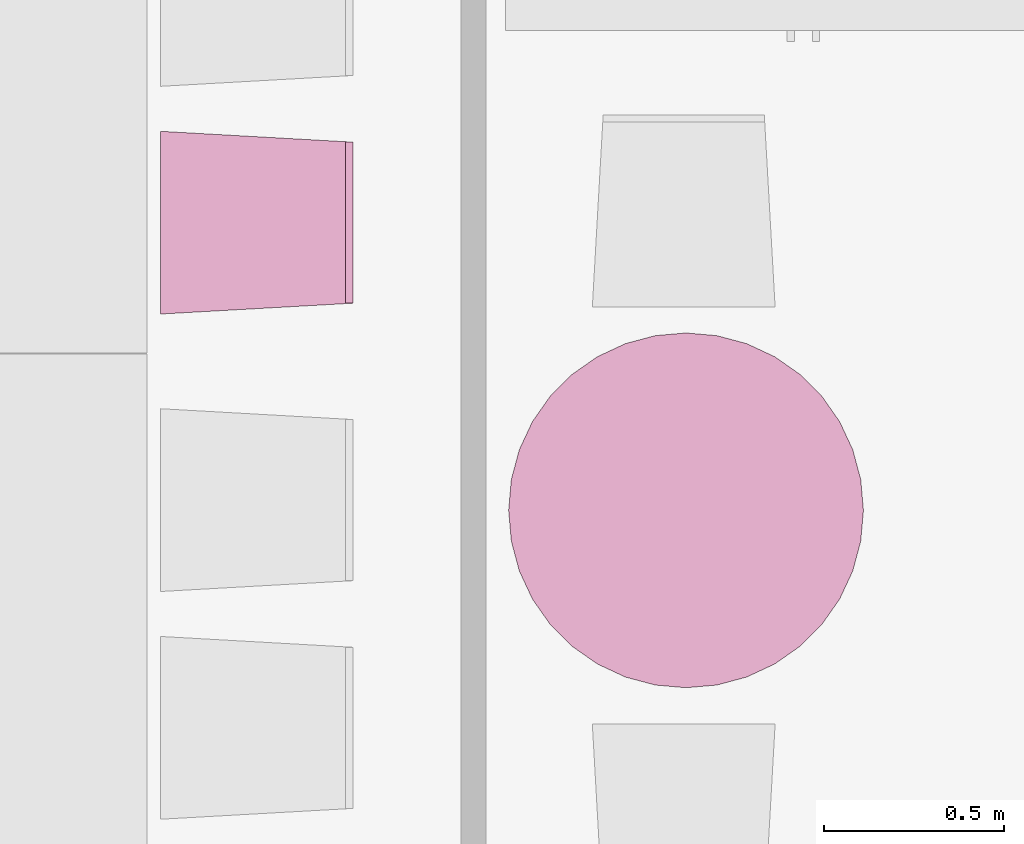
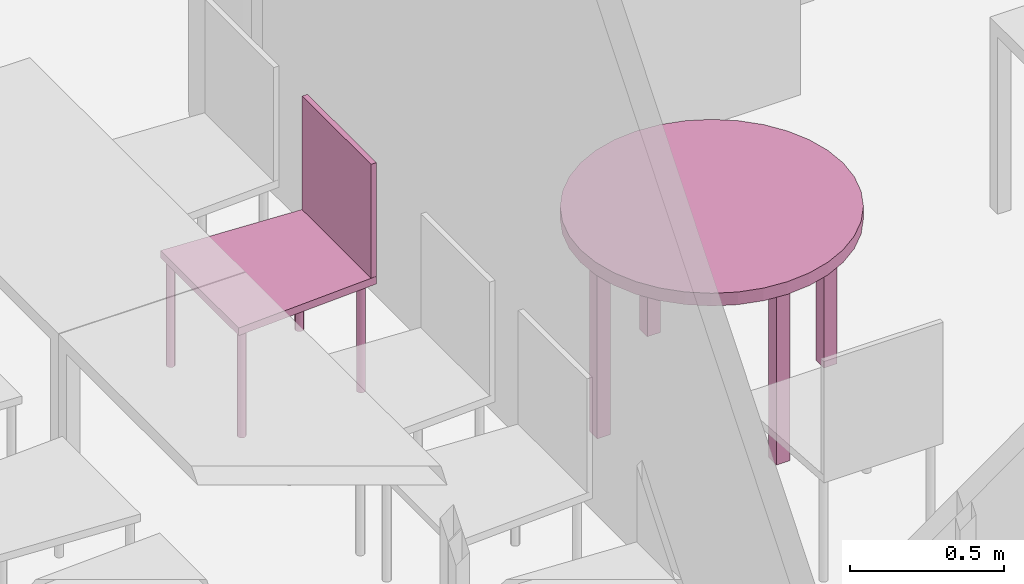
"""IFC4 building model written with IfcOpenShell, lengths in metres."""

import ifcopenshell
import ifcopenshell.guid

model = None  # the IFC model being written
_history = None  # IfcOwnerHistory: only IFC2X3 demands one
_inside = {}  # id of a spatial element -> (the spatial element, [elements in it])
_under = {}  # id of a project, library or spatial element -> (it, [spatial elements below it])
_declared = {}  # id of a project -> (the project, [libraries it declares])
_typed = {}  # id of a type object -> (the type object, [elements of that type])
_made_of = {}  # id of a material, layer set ... -> (it, [elements and type objects made of it])


def new_model(schema):
    """Start an empty IFC model of exactly this schema.

    Asked for "IFC4X3", IfcOpenShell would pick the latest addendum, in which some entities
    have other attributes; the version numbers below select the first issue.
    IFC2X3 requires an IfcOwnerHistory on every rooted entity: one is made here for all.
    """
    global model, _history
    if schema == "IFC4X3":
        model = ifcopenshell.file(schema_version=(4, 3, 0, 0))
    else:
        model = ifcopenshell.file(schema=schema)
    _inside.clear()
    _under.clear()
    _declared.clear()
    _typed.clear()
    _made_of.clear()
    _history = None
    if model.schema == "IFC2X3":
        org = make("IfcOrganization", Name="unknown")
        user = make(
            "IfcPersonAndOrganization",
            ThePerson=make("IfcPerson", FamilyName="unknown"),
            TheOrganization=org,
        )
        app = make(
            "IfcApplication",
            ApplicationDeveloper=org,
            Version="unknown",
            ApplicationFullName="unknown",
            ApplicationIdentifier="unknown",
        )
        _history = make(
            "IfcOwnerHistory",
            OwningUser=user,
            OwningApplication=app,
            ChangeAction="ADDED",
            CreationDate=0,
        )
    return model


def make(cls, **values):
    """One entity of the class cls with the attributes given. An attribute that is None is left unset."""
    return model.create_entity(
        cls, **{name: value for name, value in values.items() if value is not None}
    )


def entity(cls, *values):
    """Any entity or typed value of the class cls, its attributes in the order of the schema. None: left unset."""
    e = model.create_entity(cls)
    for i, value in enumerate(values):
        if value is not None:
            e[i] = value
    return e


def rooted(cls, **values):
    """An entity with a GlobalId (a new one), such as an element, a storey or a relation."""
    return make(cls, GlobalId=ifcopenshell.guid.new(), OwnerHistory=_history, **values)


def si_unit(unit_type, name, prefix=None):
    """IfcSIUnit, for example si_unit("LENGTHUNIT", "METRE", prefix="MILLI")."""
    return make("IfcSIUnit", UnitType=unit_type, Prefix=prefix, Name=name)


def converted_unit(unit_type, name, factor, base, dimensions=None, offset=None):
    """IfcConversionBasedUnit, such as the inch: factor (a typed value) times the base unit."""
    return make(
        "IfcConversionBasedUnit"
        if offset is None
        else "IfcConversionBasedUnitWithOffset",
        ConversionOffset=offset,
        Dimensions=None
        if dimensions is None
        else entity("IfcDimensionalExponents", *dimensions),
        UnitType=unit_type,
        Name=name,
        ConversionFactor=make(
            "IfcMeasureWithUnit", ValueComponent=factor, UnitComponent=base
        ),
    )


def derived_unit(unit_type, elements):
    """IfcDerivedUnit: a product of units, each with its exponent."""
    return make(
        "IfcDerivedUnit",
        Elements=[
            make("IfcDerivedUnitElement", Unit=unit, Exponent=power)
            for unit, power in elements
        ],
        UnitType=unit_type,
    )


def assignment(units):
    """IfcUnitAssignment: the units of a project."""
    return None if units is None else make("IfcUnitAssignment", Units=units)


def point(xyz):
    """IfcCartesianPoint."""
    return None if xyz is None else make("IfcCartesianPoint", Coordinates=xyz)


def direction(xyz):
    """IfcDirection."""
    return None if xyz is None else make("IfcDirection", DirectionRatios=xyz)


def frame(location, z_axis=None, x_axis=None):
    """IfcAxis2Placement3D, a coordinate frame: its origin and axes. An axis left out is left unset."""
    return make(
        "IfcAxis2Placement3D",
        Location=point(location),
        Axis=direction(z_axis),
        RefDirection=direction(x_axis),
    )


def origin():
    """The frame at (0, 0, 0) with its axes left unset."""
    return frame((0.0, 0.0, 0.0))


def place(relative_to, where):
    """IfcLocalPlacement: puts the frame where relative to a parent placement (None: the world)."""
    return make(
        "IfcLocalPlacement", PlacementRelTo=relative_to, RelativePlacement=where
    )


def context(
    kind, dimensions, precision=None, world=None, true_north=None, identifier=None
):
    """IfcGeometricRepresentationContext, for example the 3D "Model" context."""
    return make(
        "IfcGeometricRepresentationContext",
        ContextIdentifier=identifier,
        ContextType=kind,
        CoordinateSpaceDimension=dimensions,
        Precision=precision,
        WorldCoordinateSystem=world,
        TrueNorth=true_north,
    )


def subcontext(parent, identifier, kind, view, scale=None):
    """IfcGeometricRepresentationSubContext, for example "Body" below "Model"."""
    return make(
        "IfcGeometricRepresentationSubContext",
        ContextIdentifier=identifier,
        ContextType=kind,
        ParentContext=parent,
        TargetScale=scale,
        TargetView=view,
    )


def project(units=None, contexts=None):
    """IfcProject with its units and contexts."""
    return rooted(
        "IfcProject",
        Name="project",
        RepresentationContexts=contexts,
        UnitsInContext=assignment(units),
    )


def spatial(cls, under=None, at=None, **own):
    """A site, building, storey or space (cls), placed at a placement, below another one or the project."""
    s = rooted(cls, ObjectPlacement=at, **own)
    if under is not None:
        _under.setdefault(under.id(), (under, []))[1].append(s)
    return s


def faces_of(points, faces, orient=None, outer=None):
    """IfcFace entities. A face is a list of loops; a loop is a list of indices into points, from 0.

    orient and outer hold one flag for each loop. By default every Orientation is true, the
    first loop of a face is its IfcFaceOuterBound and the others are IfcFaceBound.
    """
    made = []
    for i, loops in enumerate(faces):
        bounds = []
        for j, loop in enumerate(loops):
            is_outer = j == 0 if outer is None else outer[i][j]
            bounds.append(
                make(
                    "IfcFaceOuterBound" if is_outer else "IfcFaceBound",
                    Bound=make("IfcPolyLoop", Polygon=[points[k] for k in loop]),
                    Orientation=True if orient is None else orient[i][j],
                )
            )
        made.append(make("IfcFace", Bounds=bounds))
    return made


def faceted_brep(points, faces, orient=None, outer=None, voids=None):
    """IfcFacetedBrep: a solid bounded by flat faces; with voids (closed shells), ...WithVoids."""
    shared = [point(p) for p in points]
    hull = make("IfcClosedShell", CfsFaces=faces_of(shared, faces, orient, outer))
    if voids is None:
        return make("IfcFacetedBrep", Outer=hull)
    return make(
        "IfcFacetedBrepWithVoids",
        Outer=hull,
        Voids=[
            make(cls, CfsFaces=faces_of(shared, fs, o, b)) for cls, fs, o, b in voids
        ],
    )


def shape(context_of_items, identifier, shape_type, items):
    """IfcShapeRepresentation: the items that make up one representation, for example the "Body"."""
    return make(
        "IfcShapeRepresentation",
        ContextOfItems=context_of_items,
        RepresentationIdentifier=identifier,
        RepresentationType=shape_type,
        Items=items,
    )


def made_of(thing, what):
    """Note that an element or type object is made of a material, layer set ...; save() writes the relation."""
    if what is not None:
        _made_of.setdefault(what.id(), (what, []))[1].append(thing)
    return thing


def element(
    cls,
    number,
    at=None,
    inside=None,
    cuts=None,
    type_object=None,
    material=None,
    context=None,
    identifier="Body",
    shape_type=None,
    held_by="IfcProductDefinitionShape",
    body=None,
    shapes=None,
    **own,
):
    """One element of the class cls, such as IfcWall. Its Tag is "e" and its number.

    at: its placement. inside: the storey or other place that contains it. cuts: it is an
    opening in that element (IfcRelVoidsElement). A single representation is given by context,
    identifier, shape_type and body (its items); several are given by shapes. held_by: the class
    of the entity that holds the representations. save() writes the other relations.
    """
    e = rooted(cls, Tag="e%d" % number, ObjectPlacement=at, **own)
    if body is not None:
        shapes = [shape(context, identifier, shape_type, body)]
    if shapes is not None:
        e.Representation = make(held_by, Representations=shapes)
    if inside is not None:
        _inside.setdefault(inside.id(), (inside, []))[1].append(e)
    if cuts is not None:
        rooted(
            "IfcRelVoidsElement", RelatingBuildingElement=cuts, RelatedOpeningElement=e
        )
    if type_object is not None:
        _typed.setdefault(type_object.id(), (type_object, []))[1].append(e)
    return made_of(e, material)


def aggregate(whole, parts):
    """IfcRelAggregates: a whole, such as a stair, and the parts it consists of."""
    return rooted("IfcRelAggregates", RelatingObject=whole, RelatedObjects=parts)


def save(model, path):
    """Write the relations noted so far, then the file.

    IfcRelAggregates (storeys below a building ...), IfcRelContainedInSpatialStructure (elements
    in a storey), IfcRelDefinesByType, IfcRelAssociatesMaterial and IfcRelDeclares: one each for
    every whole, place, type object, material and project.
    """
    for whole, parts in _under.values():
        aggregate(whole, parts)
    for where, things in _inside.values():
        rooted(
            "IfcRelContainedInSpatialStructure",
            RelatedElements=things,
            RelatingStructure=where,
        )
    for kind, things in _typed.values():
        rooted("IfcRelDefinesByType", RelatedObjects=things, RelatingType=kind)
    for what, things in _made_of.values():
        rooted("IfcRelAssociatesMaterial", RelatedObjects=things, RelatingMaterial=what)
    for by, libraries in _declared.values():
        rooted("IfcRelDeclares", RelatingContext=by, RelatedDefinitions=libraries)
    model.write(path)


model = new_model("IFC4")

# Units and contexts
model_context = context("Model", 3, precision=1e-05, world=origin())
body_context = subcontext(model_context, "Body", "Model", "MODEL_VIEW")
ifc_project = project(units=[si_unit("LENGTHUNIT", "METRE"), si_unit("AREAUNIT", "SQUARE_METRE"), si_unit("VOLUMEUNIT", "CUBIC_METRE"), si_unit("MASSUNIT", "GRAM", prefix="KILO"), converted_unit("PLANEANGLEUNIT", "DEGREE", entity("IfcPlaneAngleMeasure", 0.0174532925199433), si_unit("PLANEANGLEUNIT", "RADIAN"), dimensions=[0, 0, 0, 0, 0, 0, 0]), derived_unit("THERMALTRANSMITTANCEUNIT", [(si_unit("POWERUNIT", "WATT"), 1), (si_unit("THERMODYNAMICTEMPERATUREUNIT", "KELVIN"), -1), (si_unit("LENGTHUNIT", "METRE"), -2)]), derived_unit("VOLUMETRICFLOWRATEUNIT", [(si_unit("LENGTHUNIT", "METRE"), 3), (converted_unit("TIMEUNIT", "hour", entity("IfcTimeMeasure", 3600.0), si_unit("TIMEUNIT", "SECOND"), dimensions=[0, 0, 1, 0, 0, 0, 0]), -1), (si_unit("LENGTHUNIT", "METRE"), -1)])], contexts=[model_context])

# Building, storeys
building_placement = place(None, origin())
building = spatial("IfcBuilding", under=ifc_project, at=building_placement, Name="HABITATGE PLURIFAMILIAR", CompositionType="ELEMENT")
storey_1_placement = place(building_placement, frame((0.0, 0.0, 3.35)))
storey_1 = spatial("IfcBuildingStorey", under=building, at=storey_1_placement, Name="PLANTA  ALTELL", CompositionType="ELEMENT", Elevation=3.35)
storey_2_placement = place(storey_1_placement, origin())
storey_2 = spatial("IfcBuildingStorey", under=storey_1, at=storey_2_placement, Name="NOU", CompositionType="PARTIAL")

# Furniture
furniture_1_placement = place(storey_2_placement, frame((405.754262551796, 15.1251404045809, 0.05)))
element("IfcFurniture", 1, at=furniture_1_placement, inside=storey_2, Name="Taula D100_PA", context=body_context, shape_type="Brep", body=[
    faceted_brep([(0.983247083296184, 0.491623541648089, 0.7), (0.97577821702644, 0.576993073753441, 0.7), (0.953598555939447, 0.659768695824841, 0.7), (0.917382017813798, 0.737435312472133, 0.7), (0.868229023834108, 0.807633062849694, 0.7), (0.807633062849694, 0.868229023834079, 0.7), (0.737435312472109, 0.91738201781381, 0.7), (0.659768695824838, 0.953598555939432, 0.7), (0.576993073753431, 0.975778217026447, 0.7), (0.491623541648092, 0.983247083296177, 0.7), (0.406254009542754, 0.975778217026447, 0.7), (0.323478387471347, 0.953598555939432, 0.7), (0.245811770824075, 0.91738201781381, 0.7), (0.17561402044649, 0.868229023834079, 0.7), (0.115018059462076, 0.807633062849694, 0.7), (0.0658650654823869, 0.737435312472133, 0.7), (0.0296485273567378, 0.659768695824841, 0.7), (0.00746886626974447, 0.576993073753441, 0.7), (0.0, 0.491623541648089, 0.7), (0.00746886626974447, 0.406254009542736, 0.7), (0.0296485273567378, 0.323478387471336, 0.7), (0.0658650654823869, 0.245811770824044, 0.7), (0.115018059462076, 0.175614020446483, 0.7), (0.17561402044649, 0.115018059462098, 0.7), (0.245811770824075, 0.0658650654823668, 0.7), (0.323478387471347, 0.029648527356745, 0.7), (0.406254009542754, 0.00746886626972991, 0.7), (0.491623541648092, 0.0, 0.7), (0.576993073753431, 0.00746886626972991, 0.7), (0.659768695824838, 0.029648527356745, 0.7), (0.737435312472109, 0.0658650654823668, 0.7), (0.807633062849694, 0.115018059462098, 0.7), (0.868229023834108, 0.175614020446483, 0.7), (0.917382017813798, 0.245811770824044, 0.7), (0.953598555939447, 0.323478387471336, 0.7), (0.97577821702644, 0.406254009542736, 0.7), (0.983247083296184, 0.491623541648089, 0.75), (0.97577821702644, 0.406254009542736, 0.75), (0.953598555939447, 0.323478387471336, 0.75), (0.917382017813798, 0.245811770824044, 0.75), (0.868229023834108, 0.175614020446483, 0.75), (0.807633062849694, 0.115018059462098, 0.75), (0.737435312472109, 0.0658650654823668, 0.75), (0.659768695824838, 0.029648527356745, 0.75), (0.576993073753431, 0.00746886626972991, 0.75), (0.491623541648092, 0.0, 0.75), (0.406254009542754, 0.00746886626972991, 0.75), (0.323478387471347, 0.029648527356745, 0.75), (0.245811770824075, 0.0658650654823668, 0.75), (0.17561402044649, 0.115018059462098, 0.75), (0.115018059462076, 0.175614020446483, 0.75), (0.0658650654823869, 0.245811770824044, 0.75), (0.0296485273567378, 0.323478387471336, 0.75), (0.00746886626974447, 0.406254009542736, 0.75), (0.0, 0.491623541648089, 0.75), (0.00746886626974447, 0.576993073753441, 0.75), (0.0296485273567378, 0.659768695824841, 0.75), (0.0658650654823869, 0.737435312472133, 0.75), (0.115018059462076, 0.807633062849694, 0.75), (0.17561402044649, 0.868229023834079, 0.75), (0.245811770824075, 0.91738201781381, 0.75), (0.323478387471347, 0.953598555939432, 0.75), (0.406254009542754, 0.975778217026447, 0.75), (0.491623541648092, 0.983247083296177, 0.75), (0.576993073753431, 0.975778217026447, 0.75), (0.659768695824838, 0.953598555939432, 0.75), (0.737435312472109, 0.91738201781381, 0.75), (0.807633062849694, 0.868229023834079, 0.75), (0.868229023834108, 0.807633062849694, 0.75), (0.917382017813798, 0.737435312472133, 0.75), (0.953598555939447, 0.659768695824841, 0.75), (0.97577821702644, 0.576993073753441, 0.75)], [[[0, 1, 2, 3, 4, 5, 6, 7, 8, 9, 10, 11, 12, 13, 14, 15, 16, 17, 18, 19, 20, 21, 22, 23, 24, 25, 26, 27, 28, 29, 30, 31, 32, 33, 34, 35]], [[36, 37, 38, 39, 40, 41, 42, 43, 44, 45, 46, 47, 48, 49, 50, 51, 52, 53, 54, 55, 56, 57, 58, 59, 60, 61, 62, 63, 64, 65, 66, 67, 68, 69, 70, 71]], [[1, 0, 36, 71]], [[2, 1, 71, 70]], [[3, 2, 70, 69]], [[4, 3, 69, 68]], [[5, 4, 68, 67]], [[6, 5, 67, 66]], [[7, 6, 66, 65]], [[8, 7, 65, 64]], [[9, 8, 64, 63]], [[10, 9, 63, 62]], [[11, 10, 62, 61]], [[12, 11, 61, 60]], [[13, 12, 60, 59]], [[14, 13, 59, 58]], [[15, 14, 58, 57]], [[16, 15, 57, 56]], [[17, 16, 56, 55]], [[18, 17, 55, 54]], [[19, 18, 54, 53]], [[20, 19, 53, 52]], [[21, 20, 52, 51]], [[22, 21, 51, 50]], [[23, 22, 50, 49]], [[24, 23, 49, 48]], [[25, 24, 48, 47]], [[26, 25, 47, 46]], [[27, 26, 46, 45]], [[28, 27, 45, 44]], [[29, 28, 44, 43]], [[30, 29, 43, 42]], [[31, 30, 42, 41]], [[32, 31, 41, 40]], [[33, 32, 40, 39]], [[34, 33, 39, 38]], [[35, 34, 38, 37]], [[0, 35, 37, 36]]], orient=[[False], [False], [False], [False], [False], [False], [False], [False], [False], [False], [False], [False], [False], [False], [False], [False], [False], [False], [False], [False], [False], [False], [False], [False], [False], [False], [False], [False], [False], [False], [False], [False], [False], [False], [False], [False], [False], [False]]),
    faceted_brep([(0.477496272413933, 0.934826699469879, 0.0), (0.477496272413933, 0.884826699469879, 0.0), (0.527496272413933, 0.884826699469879, 0.0), (0.527496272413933, 0.934826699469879, 0.0), (0.477496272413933, 0.884826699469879, 0.7), (0.477496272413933, 0.934826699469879, 0.7), (0.527496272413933, 0.934826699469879, 0.7), (0.527496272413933, 0.884826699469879, 0.7)], [[[0, 1, 2, 3]], [[4, 5, 6, 7]], [[1, 0, 5, 4]], [[2, 1, 4, 7]], [[3, 2, 7, 6]], [[0, 3, 6, 5]]], orient=[[False], [False], [False], [False], [False], [False]]),
    faceted_brep([(0.0479623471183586, 0.516623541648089, 0.0), (0.0479623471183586, 0.466623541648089, 0.0), (0.0979623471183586, 0.466623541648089, 0.0), (0.0979623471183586, 0.516623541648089, 0.0), (0.0479623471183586, 0.466623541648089, 0.7), (0.0479623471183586, 0.516623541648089, 0.7), (0.0979623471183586, 0.516623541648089, 0.7), (0.0979623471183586, 0.466623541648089, 0.7)], [[[0, 1, 2, 3]], [[4, 5, 6, 7]], [[1, 0, 5, 4]], [[2, 1, 4, 7]], [[3, 2, 7, 6]], [[0, 3, 6, 5]]], orient=[[False], [False], [False], [False], [False], [False]]),
    faceted_brep([(0.884926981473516, 0.496029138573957, 0.0), (0.884926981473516, 0.446029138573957, 0.0), (0.934926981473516, 0.446029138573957, 0.0), (0.934926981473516, 0.496029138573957, 0.0), (0.884926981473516, 0.446029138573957, 0.7), (0.884926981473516, 0.496029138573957, 0.7), (0.934926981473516, 0.496029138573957, 0.7), (0.934926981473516, 0.446029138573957, 0.7)], [[[0, 1, 2, 3]], [[4, 5, 6, 7]], [[1, 0, 5, 4]], [[2, 1, 4, 7]], [[3, 2, 7, 6]], [[0, 3, 6, 5]]], orient=[[False], [False], [False], [False], [False], [False]]),
    faceted_brep([(0.477496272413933, 0.0980619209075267, 0.0), (0.477496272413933, 0.0480619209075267, 0.0), (0.527496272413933, 0.0480619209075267, 0.0), (0.527496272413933, 0.0980619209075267, 0.0), (0.477496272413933, 0.0480619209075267, 0.7), (0.477496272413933, 0.0980619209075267, 0.7), (0.527496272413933, 0.0980619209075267, 0.7), (0.527496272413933, 0.0480619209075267, 0.7)], [[[0, 1, 2, 3]], [[4, 5, 6, 7]], [[1, 0, 5, 4]], [[2, 1, 4, 7]], [[3, 2, 7, 6]], [[0, 3, 6, 5]]], orient=[[False], [False], [False], [False], [False], [False]]),
])
furniture_2_placement = place(storey_2_placement, frame((404.789669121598, 16.1607290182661, 0.0499839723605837)))
element("IfcFurniture", 2, at=furniture_2_placement, inside=storey_2, Name="Cadira confident_PA", context=body_context, shape_type="Brep", body=[
    faceted_brep([(0.0250324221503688, 0.0391636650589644, 0.0), (0.0224394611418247, 0.0389254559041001, 0.0), (0.0199272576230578, 0.038240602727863, 0.0), (0.0175721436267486, 0.0371299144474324, 0.0), (0.0154456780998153, 0.0356271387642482, 0.0), (0.0136124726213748, 0.0337779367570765, 0.0), (0.0121282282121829, 0.0316384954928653, 0.0), (0.0110380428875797, 0.0292738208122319, 0.0), (0.010375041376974, 0.0267557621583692, 0.0), (0.0101593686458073, 0.0241608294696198, 0.0), (0.010397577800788, 0.0215678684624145, 0.0), (0.0110824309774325, 0.0190556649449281, 0.0), (0.0121931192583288, 0.0167005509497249, 0.0), (0.0136958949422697, 0.0145740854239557, 0.0), (0.0155450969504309, 0.0127408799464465, 0.0), (0.0176845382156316, 0.0112566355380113, 0.0), (0.0200492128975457, 0.010166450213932, 0.0), (0.0225672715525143, 0.00950344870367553, 0.0), (0.0251622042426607, 0.00928777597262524, 0.0), (0.0277551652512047, 0.00952598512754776, 0.0), (0.0302673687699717, 0.0102108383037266, 0.0), (0.0326224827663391, 0.0113215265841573, 0.0), (0.0347489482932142, 0.0128243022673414, 0.0), (0.0365821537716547, 0.0146735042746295, 0.0), (0.0380663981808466, 0.0168129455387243, 0.0), (0.0391565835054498, 0.019177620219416, 0.0), (0.0398195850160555, 0.0216956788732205, 0.0), (0.0400352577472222, 0.0242906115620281, 0.0), (0.0397970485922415, 0.0268835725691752, 0.0), (0.0391121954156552, 0.0293957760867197, 0.0), (0.0380015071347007, 0.0317508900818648, 0.0), (0.0364987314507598, 0.0338773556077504, 0.0), (0.0346495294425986, 0.0357105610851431, 0.0), (0.0325100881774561, 0.0371948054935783, 0.0), (0.030145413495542, 0.0382849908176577, 0.0), (0.0276273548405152, 0.0389479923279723, 0.0), (0.0250324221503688, 0.0391636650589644, 0.448281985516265), (0.0276273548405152, 0.0389479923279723, 0.448281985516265), (0.030145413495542, 0.0382849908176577, 0.448281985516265), (0.0325100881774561, 0.0371948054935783, 0.448281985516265), (0.0346495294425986, 0.0357105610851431, 0.448281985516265), (0.0364987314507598, 0.0338773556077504, 0.448281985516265), (0.0380015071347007, 0.0317508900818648, 0.448281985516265), (0.0391121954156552, 0.0293957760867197, 0.448281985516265), (0.0397970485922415, 0.0268835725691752, 0.448281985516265), (0.0400352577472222, 0.0242906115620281, 0.448281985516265), (0.0398195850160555, 0.0216956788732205, 0.448281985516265), (0.0391565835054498, 0.019177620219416, 0.448281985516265), (0.0380663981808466, 0.0168129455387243, 0.448281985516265), (0.0365821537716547, 0.0146735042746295, 0.448281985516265), (0.0347489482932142, 0.0128243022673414, 0.448281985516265), (0.0326224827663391, 0.0113215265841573, 0.448281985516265), (0.0302673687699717, 0.0102108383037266, 0.448281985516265), (0.0277551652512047, 0.00952598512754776, 0.448281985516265), (0.0251622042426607, 0.00928777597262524, 0.448281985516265), (0.0225672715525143, 0.00950344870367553, 0.448281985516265), (0.0200492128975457, 0.010166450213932, 0.448281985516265), (0.0176845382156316, 0.0112566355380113, 0.448281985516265), (0.0155450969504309, 0.0127408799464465, 0.448281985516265), (0.0136958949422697, 0.0145740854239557, 0.448281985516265), (0.0121931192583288, 0.0167005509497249, 0.448281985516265), (0.0110824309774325, 0.0190556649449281, 0.448281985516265), (0.010397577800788, 0.0215678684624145, 0.448281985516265), (0.0101593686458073, 0.0241608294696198, 0.448281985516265), (0.010375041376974, 0.0267557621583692, 0.448281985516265), (0.0110380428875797, 0.0292738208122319, 0.448281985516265), (0.0121282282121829, 0.0316384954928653, 0.448281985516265), (0.0136124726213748, 0.0337779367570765, 0.448281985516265), (0.0154456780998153, 0.0356271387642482, 0.448281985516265), (0.0175721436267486, 0.0371299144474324, 0.448281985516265), (0.0199272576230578, 0.038240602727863, 0.448281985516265), (0.0224394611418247, 0.0389254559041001, 0.448281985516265)], [[[0, 1, 2, 3, 4, 5, 6, 7, 8, 9, 10, 11, 12, 13, 14, 15, 16, 17, 18, 19, 20, 21, 22, 23, 24, 25, 26, 27, 28, 29, 30, 31, 32, 33, 34, 35]], [[36, 37, 38, 39, 40, 41, 42, 43, 44, 45, 46, 47, 48, 49, 50, 51, 52, 53, 54, 55, 56, 57, 58, 59, 60, 61, 62, 63, 64, 65, 66, 67, 68, 69, 70, 71]], [[35, 37, 36, 0]], [[34, 38, 37, 35]], [[33, 39, 38, 34]], [[32, 40, 39, 33]], [[31, 41, 40, 32]], [[30, 42, 41, 31]], [[29, 43, 42, 30]], [[28, 44, 43, 29]], [[27, 45, 44, 28]], [[26, 46, 45, 27]], [[25, 47, 46, 26]], [[24, 48, 47, 25]], [[23, 49, 48, 24]], [[22, 50, 49, 23]], [[21, 51, 50, 22]], [[20, 52, 51, 21]], [[19, 53, 52, 20]], [[18, 54, 53, 19]], [[17, 55, 54, 18]], [[16, 56, 55, 17]], [[15, 57, 56, 16]], [[14, 58, 57, 15]], [[13, 59, 58, 14]], [[12, 60, 59, 13]], [[11, 61, 60, 12]], [[10, 62, 61, 11]], [[9, 63, 62, 10]], [[8, 64, 63, 9]], [[7, 65, 64, 8]], [[6, 66, 65, 7]], [[5, 67, 66, 6]], [[4, 68, 67, 5]], [[3, 69, 68, 4]], [[2, 70, 69, 3]], [[1, 71, 70, 2]], [[0, 36, 71, 1]]], orient=[[False], [False], [False], [False], [False], [False], [False], [False], [False], [False], [False], [False], [False], [False], [False], [False], [False], [False], [False], [False], [False], [False], [False], [False], [False], [False], [False], [False], [False], [False], [False], [False], [False], [False], [False], [False], [False], [False]]),
    faceted_brep([(0.487439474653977, 0.0668016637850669, 0.0), (0.484846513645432, 0.0665634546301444, 0.0), (0.482334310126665, 0.0658786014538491, 0.0), (0.479979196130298, 0.0647679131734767, 0.0), (0.477852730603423, 0.0632651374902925, 0.0), (0.476019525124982, 0.0614159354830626, 0.0), (0.474535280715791, 0.0592764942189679, 0.0), (0.473445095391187, 0.056911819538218, 0.0), (0.472782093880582, 0.0543937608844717, 0.0), (0.472566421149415, 0.0517988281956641, 0.0), (0.472804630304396, 0.0492058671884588, 0.0), (0.473489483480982, 0.0466936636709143, 0.0), (0.474600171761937, 0.0443385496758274, 0.0), (0.476102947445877, 0.0422120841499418, 0.0), (0.477952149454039, 0.0403788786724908, 0.0), (0.480091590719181, 0.0388946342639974, 0.0), (0.482456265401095, 0.0378044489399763, 0.0), (0.484974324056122, 0.0371414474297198, 0.0), (0.487569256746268, 0.0369257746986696, 0.0), (0.490162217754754, 0.0371639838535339, 0.0), (0.492674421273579, 0.0378488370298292, 0.0), (0.495029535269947, 0.0389595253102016, 0.0), (0.497156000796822, 0.0404623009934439, 0.0), (0.498989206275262, 0.0423115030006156, 0.0), (0.500473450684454, 0.0444509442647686, 0.0), (0.501563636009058, 0.0468156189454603, 0.0), (0.502226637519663, 0.0493336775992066, 0.0), (0.50244231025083, 0.0519286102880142, 0.0), (0.502204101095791, 0.0545215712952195, 0.0), (0.501519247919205, 0.057033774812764, 0.0), (0.500408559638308, 0.0593888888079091, 0.0), (0.498905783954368, 0.0615153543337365, 0.0), (0.497056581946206, 0.0633485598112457, 0.0), (0.494917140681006, 0.0648328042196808, 0.0), (0.492552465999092, 0.065922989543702, 0.0), (0.490034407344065, 0.0665859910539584, 0.0), (0.487439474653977, 0.0668016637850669, 0.448281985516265), (0.490034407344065, 0.0665859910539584, 0.448281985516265), (0.492552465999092, 0.065922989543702, 0.448281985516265), (0.494917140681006, 0.0648328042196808, 0.448281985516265), (0.497056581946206, 0.0633485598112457, 0.448281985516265), (0.498905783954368, 0.0615153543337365, 0.448281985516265), (0.500408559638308, 0.0593888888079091, 0.448281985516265), (0.501519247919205, 0.057033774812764, 0.448281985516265), (0.502204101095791, 0.0545215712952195, 0.448281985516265), (0.50244231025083, 0.0519286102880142, 0.448281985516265), (0.502226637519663, 0.0493336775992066, 0.448281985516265), (0.501563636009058, 0.0468156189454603, 0.448281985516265), (0.500473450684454, 0.0444509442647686, 0.448281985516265), (0.498989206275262, 0.0423115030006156, 0.448281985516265), (0.497156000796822, 0.0404623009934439, 0.448281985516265), (0.495029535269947, 0.0389595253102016, 0.448281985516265), (0.492674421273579, 0.0378488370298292, 0.448281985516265), (0.490162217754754, 0.0371639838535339, 0.448281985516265), (0.487569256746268, 0.0369257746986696, 0.448281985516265), (0.484974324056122, 0.0371414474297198, 0.448281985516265), (0.482456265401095, 0.0378044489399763, 0.448281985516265), (0.480091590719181, 0.0388946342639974, 0.448281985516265), (0.477952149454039, 0.0403788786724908, 0.448281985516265), (0.476102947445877, 0.0422120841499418, 0.448281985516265), (0.474600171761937, 0.0443385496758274, 0.448281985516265), (0.473489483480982, 0.0466936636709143, 0.448281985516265), (0.472804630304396, 0.0492058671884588, 0.448281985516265), (0.472566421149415, 0.0517988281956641, 0.448281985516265), (0.472782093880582, 0.0543937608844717, 0.448281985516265), (0.473445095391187, 0.056911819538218, 0.448281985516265), (0.474535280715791, 0.0592764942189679, 0.448281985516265), (0.476019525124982, 0.0614159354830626, 0.448281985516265), (0.477852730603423, 0.0632651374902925, 0.448281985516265), (0.479979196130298, 0.0647679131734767, 0.448281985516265), (0.482334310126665, 0.0658786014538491, 0.448281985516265), (0.484846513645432, 0.0665634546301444, 0.448281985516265)], [[[0, 1, 2, 3, 4, 5, 6, 7, 8, 9, 10, 11, 12, 13, 14, 15, 16, 17, 18, 19, 20, 21, 22, 23, 24, 25, 26, 27, 28, 29, 30, 31, 32, 33, 34, 35]], [[36, 37, 38, 39, 40, 41, 42, 43, 44, 45, 46, 47, 48, 49, 50, 51, 52, 53, 54, 55, 56, 57, 58, 59, 60, 61, 62, 63, 64, 65, 66, 67, 68, 69, 70, 71]], [[35, 37, 36, 0]], [[34, 38, 37, 35]], [[33, 39, 38, 34]], [[32, 40, 39, 33]], [[31, 41, 40, 32]], [[30, 42, 41, 31]], [[29, 43, 42, 30]], [[28, 44, 43, 29]], [[27, 45, 44, 28]], [[26, 46, 45, 27]], [[25, 47, 46, 26]], [[24, 48, 47, 25]], [[23, 49, 48, 24]], [[22, 50, 49, 23]], [[21, 51, 50, 22]], [[20, 52, 51, 21]], [[19, 53, 52, 20]], [[18, 54, 53, 19]], [[17, 55, 54, 18]], [[16, 56, 55, 17]], [[15, 57, 56, 16]], [[14, 58, 57, 15]], [[13, 59, 58, 14]], [[12, 60, 59, 13]], [[11, 61, 60, 12]], [[10, 62, 61, 11]], [[9, 63, 62, 10]], [[8, 64, 63, 9]], [[7, 65, 64, 8]], [[6, 66, 65, 7]], [[5, 67, 66, 6]], [[4, 68, 67, 5]], [[3, 69, 68, 4]], [[2, 70, 69, 3]], [[1, 71, 70, 2]], [[0, 36, 71, 1]]], orient=[[False], [False], [False], [False], [False], [False], [False], [False], [False], [False], [False], [False], [False], [False], [False], [False], [False], [False], [False], [False], [False], [False], [False], [False], [False], [False], [False], [False], [False], [False], [False], [False], [False], [False], [False], [False], [False], [False]]),
    faceted_brep([(0.0250324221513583, 0.499163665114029, 0.0), (0.0224394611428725, 0.498925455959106, 0.0), (0.0199272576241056, 0.498240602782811, 0.0), (0.0175721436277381, 0.497129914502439, 0.0), (0.0154456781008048, 0.495627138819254, 0.0), (0.0136124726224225, 0.493777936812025, 0.0), (0.0121282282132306, 0.491638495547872, 0.0), (0.0110380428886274, 0.489273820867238, 0.0), (0.0103750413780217, 0.486755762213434, 0.0), (0.0101593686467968, 0.484160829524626, 0.0), (0.0103975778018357, 0.481567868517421, 0.0), (0.0110824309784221, 0.479055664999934, 0.0), (0.0121931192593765, 0.476700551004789, 0.0), (0.0136958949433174, 0.474574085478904, 0.0), (0.0155450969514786, 0.472740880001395, 0.0), (0.0176845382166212, 0.471256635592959, 0.0), (0.0200492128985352, 0.470166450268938, 0.0), (0.022567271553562, 0.469503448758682, 0.0), (0.0251622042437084, 0.469287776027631, 0.0), (0.0277551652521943, 0.469525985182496, 0.0), (0.0302673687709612, 0.470210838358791, 0.0), (0.0326224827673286, 0.471321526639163, 0.0), (0.0347489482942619, 0.472824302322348, 0.0), (0.0365821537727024, 0.474673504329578, 0.0), (0.0380663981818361, 0.476812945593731, 0.0), (0.0391565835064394, 0.479177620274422, 0.0), (0.039819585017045, 0.481695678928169, 0.0), (0.0400352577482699, 0.484290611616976, 0.0), (0.039797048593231, 0.486883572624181, 0.0), (0.0391121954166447, 0.489395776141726, 0.0), (0.0380015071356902, 0.491750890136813, 0.0), (0.0364987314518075, 0.493877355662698, 0.0), (0.0346495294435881, 0.495710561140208, 0.0), (0.0325100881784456, 0.497194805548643, 0.0), (0.0301454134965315, 0.498284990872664, 0.0), (0.0276273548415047, 0.49894799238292, 0.0), (0.0250324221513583, 0.499163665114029, 0.448281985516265), (0.0276273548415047, 0.49894799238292, 0.448281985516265), (0.0301454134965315, 0.498284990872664, 0.448281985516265), (0.0325100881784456, 0.497194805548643, 0.448281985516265), (0.0346495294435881, 0.495710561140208, 0.448281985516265), (0.0364987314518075, 0.493877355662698, 0.448281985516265), (0.0380015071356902, 0.491750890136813, 0.448281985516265), (0.0391121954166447, 0.489395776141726, 0.448281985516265), (0.039797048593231, 0.486883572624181, 0.448281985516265), (0.0400352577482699, 0.484290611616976, 0.448281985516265), (0.039819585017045, 0.481695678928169, 0.448281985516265), (0.0391565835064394, 0.479177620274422, 0.448281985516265), (0.0380663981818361, 0.476812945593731, 0.448281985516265), (0.0365821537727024, 0.474673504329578, 0.448281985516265), (0.0347489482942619, 0.472824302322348, 0.448281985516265), (0.0326224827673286, 0.471321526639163, 0.448281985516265), (0.0302673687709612, 0.470210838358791, 0.448281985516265), (0.0277551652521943, 0.469525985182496, 0.448281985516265), (0.0251622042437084, 0.469287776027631, 0.448281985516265), (0.022567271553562, 0.469503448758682, 0.448281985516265), (0.0200492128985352, 0.470166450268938, 0.448281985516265), (0.0176845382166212, 0.471256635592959, 0.448281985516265), (0.0155450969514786, 0.472740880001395, 0.448281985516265), (0.0136958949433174, 0.474574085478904, 0.448281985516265), (0.0121931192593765, 0.476700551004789, 0.448281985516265), (0.0110824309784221, 0.479055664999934, 0.448281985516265), (0.0103975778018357, 0.481567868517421, 0.448281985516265), (0.0101593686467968, 0.484160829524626, 0.448281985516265), (0.0103750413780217, 0.486755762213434, 0.448281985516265), (0.0110380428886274, 0.489273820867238, 0.448281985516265), (0.0121282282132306, 0.491638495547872, 0.448281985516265), (0.0136124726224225, 0.493777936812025, 0.448281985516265), (0.0154456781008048, 0.495627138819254, 0.448281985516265), (0.0175721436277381, 0.497129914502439, 0.448281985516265), (0.0199272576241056, 0.498240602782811, 0.448281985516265), (0.0224394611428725, 0.498925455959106, 0.448281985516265)], [[[0, 1, 2, 3, 4, 5, 6, 7, 8, 9, 10, 11, 12, 13, 14, 15, 16, 17, 18, 19, 20, 21, 22, 23, 24, 25, 26, 27, 28, 29, 30, 31, 32, 33, 34, 35]], [[36, 37, 38, 39, 40, 41, 42, 43, 44, 45, 46, 47, 48, 49, 50, 51, 52, 53, 54, 55, 56, 57, 58, 59, 60, 61, 62, 63, 64, 65, 66, 67, 68, 69, 70, 71]], [[35, 37, 36, 0]], [[34, 38, 37, 35]], [[33, 39, 38, 34]], [[32, 40, 39, 33]], [[31, 41, 40, 32]], [[30, 42, 41, 31]], [[29, 43, 42, 30]], [[28, 44, 43, 29]], [[27, 45, 44, 28]], [[26, 46, 45, 27]], [[25, 47, 46, 26]], [[24, 48, 47, 25]], [[23, 49, 48, 24]], [[22, 50, 49, 23]], [[21, 51, 50, 22]], [[20, 52, 51, 21]], [[19, 53, 52, 20]], [[18, 54, 53, 19]], [[17, 55, 54, 18]], [[16, 56, 55, 17]], [[15, 57, 56, 16]], [[14, 58, 57, 15]], [[13, 59, 58, 14]], [[12, 60, 59, 13]], [[11, 61, 60, 12]], [[10, 62, 61, 11]], [[9, 63, 62, 10]], [[8, 64, 63, 9]], [[7, 65, 64, 8]], [[6, 66, 65, 7]], [[5, 67, 66, 6]], [[4, 68, 67, 5]], [[3, 69, 68, 4]], [[2, 70, 69, 3]], [[1, 71, 70, 2]], [[0, 36, 71, 1]]], orient=[[False], [False], [False], [False], [False], [False], [False], [False], [False], [False], [False], [False], [False], [False], [False], [False], [False], [False], [False], [False], [False], [False], [False], [False], [False], [False], [False], [False], [False], [False], [False], [False], [False], [False], [False], [False], [False], [False]]),
    faceted_brep([(0.48743947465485, 0.466801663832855, 0.0), (0.484846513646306, 0.466563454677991, 0.0), (0.482334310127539, 0.465878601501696, 0.0), (0.479979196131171, 0.464767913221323, 0.0), (0.477852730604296, 0.463265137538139, 0.0), (0.476019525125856, 0.461415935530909, 0.0), (0.474535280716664, 0.459276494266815, 0.0), (0.47344509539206, 0.456911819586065, 0.0), (0.472782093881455, 0.454393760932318, 0.0), (0.472566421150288, 0.451798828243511, 0.0), (0.472804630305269, 0.449205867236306, 0.0), (0.473489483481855, 0.446693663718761, 0.0), (0.47460017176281, 0.444338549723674, 0.0), (0.47610294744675, 0.442212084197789, 0.0), (0.477952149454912, 0.440378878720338, 0.0), (0.480091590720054, 0.438894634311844, 0.0), (0.482456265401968, 0.437804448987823, 0.0), (0.484974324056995, 0.437141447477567, 0.0), (0.487569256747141, 0.436925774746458, 0.0), (0.490162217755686, 0.437163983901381, 0.0), (0.492674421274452, 0.437848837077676, 0.0), (0.495029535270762, 0.438959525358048, 0.0), (0.497156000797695, 0.440462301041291, 0.0), (0.498989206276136, 0.442311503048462, 0.0), (0.500473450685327, 0.444450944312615, 0.0), (0.501563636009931, 0.446815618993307, 0.0), (0.502226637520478, 0.449333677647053, 0.0), (0.502442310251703, 0.451928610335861, 0.0), (0.502204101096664, 0.454521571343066, 0.0), (0.501519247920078, 0.457033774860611, 0.0), (0.500408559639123, 0.459388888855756, 0.0), (0.498905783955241, 0.461515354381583, 0.0), (0.497056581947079, 0.463348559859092, 0.0), (0.494917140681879, 0.464832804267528, 0.0), (0.492552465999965, 0.465922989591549, 0.0), (0.490034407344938, 0.466585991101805, 0.0), (0.48743947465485, 0.466801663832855, 0.448281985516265), (0.490034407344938, 0.466585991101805, 0.448281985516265), (0.492552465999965, 0.465922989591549, 0.448281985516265), (0.494917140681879, 0.464832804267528, 0.448281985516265), (0.497056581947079, 0.463348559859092, 0.448281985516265), (0.498905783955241, 0.461515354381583, 0.448281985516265), (0.500408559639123, 0.459388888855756, 0.448281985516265), (0.501519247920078, 0.457033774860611, 0.448281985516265), (0.502204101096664, 0.454521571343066, 0.448281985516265), (0.502442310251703, 0.451928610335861, 0.448281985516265), (0.502226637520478, 0.449333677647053, 0.448281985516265), (0.501563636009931, 0.446815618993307, 0.448281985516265), (0.500473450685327, 0.444450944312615, 0.448281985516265), (0.498989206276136, 0.442311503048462, 0.448281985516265), (0.497156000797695, 0.440462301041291, 0.448281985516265), (0.495029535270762, 0.438959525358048, 0.448281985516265), (0.492674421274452, 0.437848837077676, 0.448281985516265), (0.490162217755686, 0.437163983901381, 0.448281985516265), (0.487569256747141, 0.436925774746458, 0.448281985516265), (0.484974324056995, 0.437141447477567, 0.448281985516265), (0.482456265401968, 0.437804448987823, 0.448281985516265), (0.480091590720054, 0.438894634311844, 0.448281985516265), (0.477952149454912, 0.440378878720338, 0.448281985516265), (0.47610294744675, 0.442212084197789, 0.448281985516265), (0.47460017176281, 0.444338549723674, 0.448281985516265), (0.473489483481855, 0.446693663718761, 0.448281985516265), (0.472804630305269, 0.449205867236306, 0.448281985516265), (0.472566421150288, 0.451798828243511, 0.448281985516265), (0.472782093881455, 0.454393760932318, 0.448281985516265), (0.47344509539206, 0.456911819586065, 0.448281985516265), (0.474535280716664, 0.459276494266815, 0.448281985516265), (0.476019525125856, 0.461415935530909, 0.448281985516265), (0.477852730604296, 0.463265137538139, 0.448281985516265), (0.479979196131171, 0.464767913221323, 0.448281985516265), (0.482334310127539, 0.465878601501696, 0.448281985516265), (0.484846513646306, 0.466563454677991, 0.448281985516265)], [[[0, 1, 2, 3, 4, 5, 6, 7, 8, 9, 10, 11, 12, 13, 14, 15, 16, 17, 18, 19, 20, 21, 22, 23, 24, 25, 26, 27, 28, 29, 30, 31, 32, 33, 34, 35]], [[36, 37, 38, 39, 40, 41, 42, 43, 44, 45, 46, 47, 48, 49, 50, 51, 52, 53, 54, 55, 56, 57, 58, 59, 60, 61, 62, 63, 64, 65, 66, 67, 68, 69, 70, 71]], [[35, 37, 36, 0]], [[34, 38, 37, 35]], [[33, 39, 38, 34]], [[32, 40, 39, 33]], [[31, 41, 40, 32]], [[30, 42, 41, 31]], [[29, 43, 42, 30]], [[28, 44, 43, 29]], [[27, 45, 44, 28]], [[26, 46, 45, 27]], [[25, 47, 46, 26]], [[24, 48, 47, 25]], [[23, 49, 48, 24]], [[22, 50, 49, 23]], [[21, 51, 50, 22]], [[20, 52, 51, 21]], [[19, 53, 52, 20]], [[18, 54, 53, 19]], [[17, 55, 54, 18]], [[16, 56, 55, 17]], [[15, 57, 56, 16]], [[14, 58, 57, 15]], [[13, 59, 58, 14]], [[12, 60, 59, 13]], [[11, 61, 60, 12]], [[10, 62, 61, 11]], [[9, 63, 62, 10]], [[8, 64, 63, 9]], [[7, 65, 64, 8]], [[6, 66, 65, 7]], [[5, 67, 66, 6]], [[4, 68, 67, 5]], [[3, 69, 68, 4]], [[2, 70, 69, 3]], [[1, 71, 70, 2]], [[0, 36, 71, 1]]], orient=[[False], [False], [False], [False], [False], [False], [False], [False], [False], [False], [False], [False], [False], [False], [False], [False], [False], [False], [False], [False], [False], [False], [False], [False], [False], [False], [False], [False], [False], [False], [False], [False], [False], [False], [False], [False], [False], [False]]),
    faceted_brep([(0.532607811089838, 0.476514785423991, 0.418281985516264), (0.0, 0.506514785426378, 0.418281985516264), (0.0, 0.0, 0.418281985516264), (0.532607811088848, 0.0300000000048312, 0.418281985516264), (0.0, 0.506514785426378, 0.448281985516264), (0.532607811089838, 0.476514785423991, 0.448281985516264), (0.532607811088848, 0.0300000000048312, 0.448281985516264), (0.0, 0.0, 0.448281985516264)], [[[0, 1, 2, 3]], [[4, 5, 6, 7]], [[1, 0, 5, 4]], [[2, 1, 4, 7]], [[3, 2, 7, 6]], [[0, 3, 6, 5]]], orient=[[False], [False], [False], [False], [False], [False]]),
    faceted_brep([(0.512607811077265, 0.476514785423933, 0.448281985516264), (0.512607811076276, 0.0300000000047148, 0.448281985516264), (0.53260781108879, 0.0300000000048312, 0.448281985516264), (0.53260781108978, 0.476514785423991, 0.448281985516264), (0.512607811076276, 0.0300000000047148, 0.898281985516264), (0.512607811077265, 0.476514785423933, 0.898281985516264), (0.53260781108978, 0.476514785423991, 0.898281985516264), (0.53260781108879, 0.0300000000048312, 0.898281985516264)], [[[0, 1, 2, 3]], [[4, 5, 6, 7]], [[1, 0, 5, 4]], [[2, 1, 4, 7]], [[3, 2, 7, 6]], [[0, 3, 6, 5]]], orient=[[False], [False], [False], [False], [False], [False]]),
])

save(model, "model.ifc")
